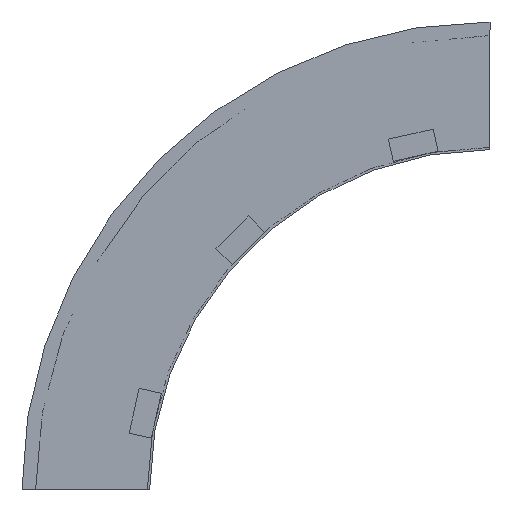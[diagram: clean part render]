
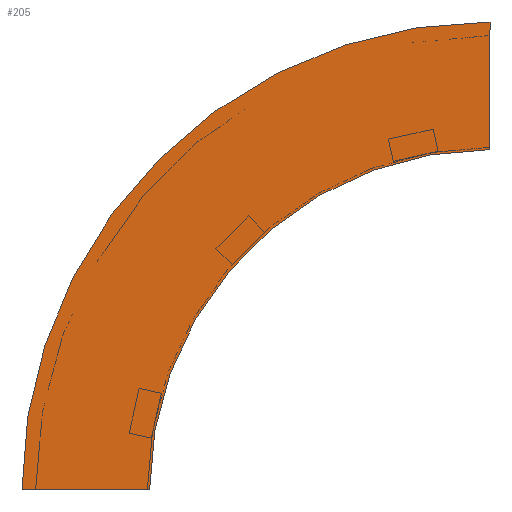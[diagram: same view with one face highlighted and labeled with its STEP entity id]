
A CAD part, left-side view. The second image highlights one B-rep face of the part: STEP entity #205.
In plain terms, the highlighted planar face has unit normal (-1, 0, 0) as drawn and (1, 0, 0) by its records, which use the part's own axes.
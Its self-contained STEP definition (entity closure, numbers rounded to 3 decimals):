
#9 = DIRECTION ( 'NONE',  ( 0., 1., 0. ) ) ;
#17 = CARTESIAN_POINT ( 'NONE',  ( 0., -300., 0. ) ) ;
#28 = CIRCLE ( 'NONE', #291, 300. ) ;
#42 = CARTESIAN_POINT ( 'NONE',  ( 0., -300., 412.5 ) ) ;
#56 = CARTESIAN_POINT ( 'NONE',  ( 0., 0., 0. ) ) ;
#65 = DIRECTION ( 'NONE',  ( 0., 0., -1. ) ) ;
#67 = EDGE_CURVE ( 'NONE', #242, #144, #563, .T. ) ;
#106 = DIRECTION ( 'NONE',  ( 0., 1., 0. ) ) ;
#126 = CARTESIAN_POINT ( 'NONE',  ( 0., 0., 0. ) ) ;
#131 = ORIENTED_EDGE ( 'NONE', *, *, #447, .T. ) ;
#142 = DIRECTION ( 'NONE',  ( 1., 0., 0. ) ) ;
#144 = VERTEX_POINT ( 'NONE', #42 ) ;
#150 = DIRECTION ( 'NONE',  ( 1., 0., 0. ) ) ;
#170 = DIRECTION ( 'NONE',  ( 1., 0., 0. ) ) ;
#187 = CARTESIAN_POINT ( 'NONE',  ( 0., -300., 300. ) ) ;
#194 = ORIENTED_EDGE ( 'NONE', *, *, #395, .F. ) ;
#205 = ADVANCED_FACE ( 'NONE', ( #391 ), #570, .T. ) ;
#234 = ORIENTED_EDGE ( 'NONE', *, *, #67, .T. ) ;
#242 = VERTEX_POINT ( 'NONE', #415 ) ;
#251 = CARTESIAN_POINT ( 'NONE',  ( 0., -300., 300. ) ) ;
#282 = EDGE_LOOP ( 'NONE', ( #234, #512, #194, #131 ) ) ;
#291 = AXIS2_PLACEMENT_3D ( 'NONE', #545, #142, #9 ) ;
#298 = LINE ( 'NONE', #251, #398 ) ;
#303 = VERTEX_POINT ( 'NONE', #126 ) ;
#305 = AXIS2_PLACEMENT_3D ( 'NONE', #17, #150, #106 ) ;
#391 = FACE_OUTER_BOUND ( 'NONE', #282, .T. ) ;
#395 = EDGE_CURVE ( 'NONE', #303, #497, #28, .T. ) ;
#398 = VECTOR ( 'NONE', #469, 1000. ) ;
#415 = CARTESIAN_POINT ( 'NONE',  ( 0., 112.5, 0. ) ) ;
#416 = LINE ( 'NONE', #56, #475 ) ;
#437 = EDGE_CURVE ( 'NONE', #497, #144, #298, .T. ) ;
#447 = EDGE_CURVE ( 'NONE', #303, #242, #416, .T. ) ;
#469 = DIRECTION ( 'NONE',  ( 0., 0., 1. ) ) ;
#472 = CARTESIAN_POINT ( 'NONE',  ( 0., 0., 0. ) ) ;
#475 = VECTOR ( 'NONE', #502, 1000. ) ;
#486 = AXIS2_PLACEMENT_3D ( 'NONE', #472, #170, #65 ) ;
#497 = VERTEX_POINT ( 'NONE', #187 ) ;
#502 = DIRECTION ( 'NONE',  ( 0., 1., 0. ) ) ;
#512 = ORIENTED_EDGE ( 'NONE', *, *, #437, .F. ) ;
#545 = CARTESIAN_POINT ( 'NONE',  ( 0., -300., 0. ) ) ;
#563 = CIRCLE ( 'NONE', #305, 412.5 ) ;
#570 = PLANE ( 'NONE',  #486 ) ;
